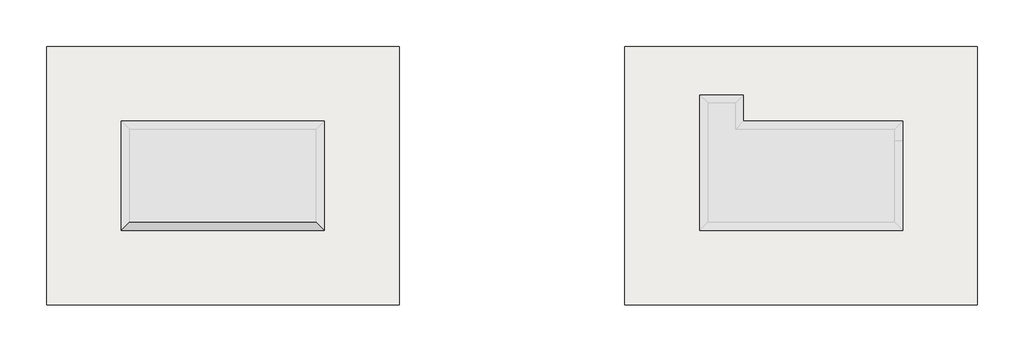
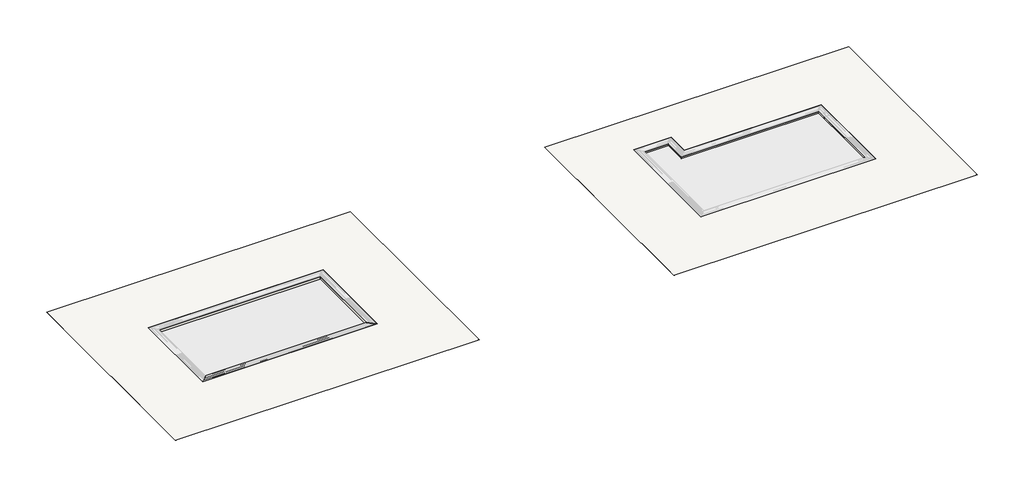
# One storey, part 1 of 6: 11 walls, 4 slabs, 1 proxy, 1 stair flight.
"""IFC4 building model written with IfcOpenShell, lengths in millimetres."""

import ifcopenshell
import ifcopenshell.guid

model = None  # the IFC model being written
_history = None  # IfcOwnerHistory: only IFC2X3 demands one
_inside = {}  # id of a spatial element -> (the spatial element, [elements in it])
_under = {}  # id of a project, library or spatial element -> (it, [spatial elements below it])
_declared = {}  # id of a project -> (the project, [libraries it declares])
_typed = {}  # id of a type object -> (the type object, [elements of that type])
_made_of = {}  # id of a material, layer set ... -> (it, [elements and type objects made of it])


def new_model(schema):
    """Start an empty IFC model of exactly this schema.

    Asked for "IFC4X3", IfcOpenShell would pick the latest addendum, in which some entities
    have other attributes; the version numbers below select the first issue.
    IFC2X3 requires an IfcOwnerHistory on every rooted entity: one is made here for all.
    """
    global model, _history
    if schema == "IFC4X3":
        model = ifcopenshell.file(schema_version=(4, 3, 0, 0))
    else:
        model = ifcopenshell.file(schema=schema)
    _inside.clear()
    _under.clear()
    _declared.clear()
    _typed.clear()
    _made_of.clear()
    _history = None
    if model.schema == "IFC2X3":
        org = make("IfcOrganization", Name="unknown")
        user = make(
            "IfcPersonAndOrganization",
            ThePerson=make("IfcPerson", FamilyName="unknown"),
            TheOrganization=org,
        )
        app = make(
            "IfcApplication",
            ApplicationDeveloper=org,
            Version="unknown",
            ApplicationFullName="unknown",
            ApplicationIdentifier="unknown",
        )
        _history = make(
            "IfcOwnerHistory",
            OwningUser=user,
            OwningApplication=app,
            ChangeAction="ADDED",
            CreationDate=0,
        )
    return model


def make(cls, **values):
    """One entity of the class cls with the attributes given. An attribute that is None is left unset."""
    return model.create_entity(
        cls, **{name: value for name, value in values.items() if value is not None}
    )


def rooted(cls, **values):
    """An entity with a GlobalId (a new one), such as an element, a storey or a relation."""
    return make(cls, GlobalId=ifcopenshell.guid.new(), OwnerHistory=_history, **values)


def si_unit(unit_type, name, prefix=None):
    """IfcSIUnit, for example si_unit("LENGTHUNIT", "METRE", prefix="MILLI")."""
    return make("IfcSIUnit", UnitType=unit_type, Prefix=prefix, Name=name)


def assignment(units):
    """IfcUnitAssignment: the units of a project."""
    return None if units is None else make("IfcUnitAssignment", Units=units)


def point(xyz):
    """IfcCartesianPoint."""
    return None if xyz is None else make("IfcCartesianPoint", Coordinates=xyz)


def direction(xyz):
    """IfcDirection."""
    return None if xyz is None else make("IfcDirection", DirectionRatios=xyz)


def frame(location, z_axis=None, x_axis=None):
    """IfcAxis2Placement3D, a coordinate frame: its origin and axes. An axis left out is left unset."""
    return make(
        "IfcAxis2Placement3D",
        Location=point(location),
        Axis=direction(z_axis),
        RefDirection=direction(x_axis),
    )


def origin():
    """The frame at (0, 0, 0) with its axes left unset."""
    return frame((0.0, 0.0, 0.0))


def place(relative_to, where):
    """IfcLocalPlacement: puts the frame where relative to a parent placement (None: the world)."""
    return make(
        "IfcLocalPlacement", PlacementRelTo=relative_to, RelativePlacement=where
    )


def context(
    kind, dimensions, precision=None, world=None, true_north=None, identifier=None
):
    """IfcGeometricRepresentationContext, for example the 3D "Model" context."""
    return make(
        "IfcGeometricRepresentationContext",
        ContextIdentifier=identifier,
        ContextType=kind,
        CoordinateSpaceDimension=dimensions,
        Precision=precision,
        WorldCoordinateSystem=world,
        TrueNorth=true_north,
    )


def project(units=None, contexts=None):
    """IfcProject with its units and contexts."""
    return rooted(
        "IfcProject",
        Name="project",
        RepresentationContexts=contexts,
        UnitsInContext=assignment(units),
    )


def spatial(cls, under=None, at=None, **own):
    """A site, building, storey or space (cls), placed at a placement, below another one or the project."""
    s = rooted(cls, ObjectPlacement=at, **own)
    if under is not None:
        _under.setdefault(under.id(), (under, []))[1].append(s)
    return s


def polyline(points):
    """IfcPolyline through the points."""
    return make("IfcPolyline", Points=[point(p) for p in points])


def outline(outer, holes=None, kind="AREA"):
    """IfcArbitraryClosedProfileDef: a profile drawn as a closed curve; with holes, ...WithVoids."""
    if holes is None:
        return make("IfcArbitraryClosedProfileDef", ProfileType=kind, OuterCurve=outer)
    return make(
        "IfcArbitraryProfileDefWithVoids",
        ProfileType=kind,
        OuterCurve=outer,
        InnerCurves=holes,
    )


def extrude(swept, where, along, depth):
    """IfcExtrudedAreaSolid: the profile swept, set in the frame where, extruded along a direction by depth."""
    return make(
        "IfcExtrudedAreaSolid",
        SweptArea=swept,
        Position=where,
        ExtrudedDirection=direction(along),
        Depth=depth,
    )


def faces_of(points, faces, orient=None, outer=None):
    """IfcFace entities. A face is a list of loops; a loop is a list of indices into points, from 0.

    orient and outer hold one flag for each loop. By default every Orientation is true, the
    first loop of a face is its IfcFaceOuterBound and the others are IfcFaceBound.
    """
    made = []
    for i, loops in enumerate(faces):
        bounds = []
        for j, loop in enumerate(loops):
            is_outer = j == 0 if outer is None else outer[i][j]
            bounds.append(
                make(
                    "IfcFaceOuterBound" if is_outer else "IfcFaceBound",
                    Bound=make("IfcPolyLoop", Polygon=[points[k] for k in loop]),
                    Orientation=True if orient is None else orient[i][j],
                )
            )
        made.append(make("IfcFace", Bounds=bounds))
    return made


def faceted_brep(points, faces, orient=None, outer=None, voids=None):
    """IfcFacetedBrep: a solid bounded by flat faces; with voids (closed shells), ...WithVoids."""
    shared = [point(p) for p in points]
    hull = make("IfcClosedShell", CfsFaces=faces_of(shared, faces, orient, outer))
    if voids is None:
        return make("IfcFacetedBrep", Outer=hull)
    return make(
        "IfcFacetedBrepWithVoids",
        Outer=hull,
        Voids=[
            make(cls, CfsFaces=faces_of(shared, fs, o, b)) for cls, fs, o, b in voids
        ],
    )


def shape(context_of_items, identifier, shape_type, items):
    """IfcShapeRepresentation: the items that make up one representation, for example the "Body"."""
    return make(
        "IfcShapeRepresentation",
        ContextOfItems=context_of_items,
        RepresentationIdentifier=identifier,
        RepresentationType=shape_type,
        Items=items,
    )


def made_of(thing, what):
    """Note that an element or type object is made of a material, layer set ...; save() writes the relation."""
    if what is not None:
        _made_of.setdefault(what.id(), (what, []))[1].append(thing)
    return thing


def element(
    cls,
    number,
    at=None,
    inside=None,
    cuts=None,
    type_object=None,
    material=None,
    context=None,
    identifier="Body",
    shape_type=None,
    held_by="IfcProductDefinitionShape",
    body=None,
    shapes=None,
    **own,
):
    """One element of the class cls, such as IfcWall. Its Tag is "e" and its number.

    at: its placement. inside: the storey or other place that contains it. cuts: it is an
    opening in that element (IfcRelVoidsElement). A single representation is given by context,
    identifier, shape_type and body (its items); several are given by shapes. held_by: the class
    of the entity that holds the representations. save() writes the other relations.
    """
    e = rooted(cls, Tag="e%d" % number, ObjectPlacement=at, **own)
    if body is not None:
        shapes = [shape(context, identifier, shape_type, body)]
    if shapes is not None:
        e.Representation = make(held_by, Representations=shapes)
    if inside is not None:
        _inside.setdefault(inside.id(), (inside, []))[1].append(e)
    if cuts is not None:
        rooted(
            "IfcRelVoidsElement", RelatingBuildingElement=cuts, RelatedOpeningElement=e
        )
    if type_object is not None:
        _typed.setdefault(type_object.id(), (type_object, []))[1].append(e)
    return made_of(e, material)


def aggregate(whole, parts):
    """IfcRelAggregates: a whole, such as a stair, and the parts it consists of."""
    return rooted("IfcRelAggregates", RelatingObject=whole, RelatedObjects=parts)


def save(model, path):
    """Write the relations noted so far, then the file.

    IfcRelAggregates (storeys below a building ...), IfcRelContainedInSpatialStructure (elements
    in a storey), IfcRelDefinesByType, IfcRelAssociatesMaterial and IfcRelDeclares: one each for
    every whole, place, type object, material and project.
    """
    for whole, parts in _under.values():
        aggregate(whole, parts)
    for where, things in _inside.values():
        rooted(
            "IfcRelContainedInSpatialStructure",
            RelatedElements=things,
            RelatingStructure=where,
        )
    for kind, things in _typed.values():
        rooted("IfcRelDefinesByType", RelatedObjects=things, RelatingType=kind)
    for what, things in _made_of.values():
        rooted("IfcRelAssociatesMaterial", RelatedObjects=things, RelatingMaterial=what)
    for by, libraries in _declared.values():
        rooted("IfcRelDeclares", RelatingContext=by, RelatedDefinitions=libraries)
    model.write(path)


model = new_model("IFC4")

# Units and contexts
model_context = context("Model", 3, world=origin())
ifc_project = project(units=[si_unit("LENGTHUNIT", "METRE", prefix="MILLI")], contexts=[model_context])

# Site, building, storey
site = spatial("IfcSite", under=ifc_project)
building = spatial("IfcBuilding", under=site)
storey = spatial("IfcBuildingStorey", under=building, Name="EXAGRES_NUBIA Series_Pool_Examples", Elevation=18000.0)

# Proxy
placement = place(None, origin())
element("IfcBuildingElementProxy", 1, Name="Wall Sweeps", at=placement, inside=storey, context=model_context, shape_type="Brep", body=[
    faceted_brep([(-5315.8828161, -8556.6632512, 18000.0), (-5328.8828161, -8543.6632512, 18000.0), (-5328.8828161, -8543.6632512, 18033.0), (-4998.8828161, -8873.6632512, 18033.0), (-4998.8828161, -8873.6632512, 18021.0), (-5004.8828161, -8867.6632512, 18021.0), (-5004.8828161, -8867.6632512, 18022.0), (-5008.8828161, -8863.6632512, 18022.0), (-5008.8828161, -8863.6632512, 18021.0), (-5014.8828161, -8857.6632512, 18021.0), (-5014.8828161, -8857.6632512, 18022.0), (-5018.8828161, -8853.6632512, 18022.0), (-5018.8828161, -8853.6632512, 18021.0), (-5024.8828161, -8847.6632512, 18021.0), (-5024.8828161, -8847.6632512, 18022.0), (-5028.8828161, -8843.6632512, 18022.0), (-5028.8828161, -8843.6632512, 18021.0), (-5034.8828161, -8837.6632512, 18021.0), (-5034.8828161, -8837.6632512, 18022.0), (-5038.8828161, -8833.6632512, 18022.0), (-5038.8828161, -8833.6632512, 18021.0), (-5044.8828161, -8827.6632512, 18021.0), (-5044.8828161, -8827.6632512, 18022.0), (-5048.8828161, -8823.6632512, 18022.0), (-5048.8828161, -8823.6632512, 18021.0), (-5054.8828161, -8817.6632512, 18021.0), (-5054.8828161, -8817.6632512, 18022.0), (-5058.8828161, -8813.6632512, 18022.0), (-5058.8828161, -8813.6632512, 18021.0), (-5064.8828161, -8807.6632512, 18021.0), (-5064.8828161, -8807.6632512, 18022.0), (-5068.8828161, -8803.6632512, 18022.0), (-5068.8828161, -8803.6632512, 18021.0), (-5074.8828161, -8797.6632512, 18021.0), (-5074.8828161, -8797.6632512, 18022.0), (-5078.8828161, -8793.6632512, 18022.0), (-5078.8828161, -8793.6632512, 18021.0), (-5084.8828161, -8787.6632512, 18021.0), (-5084.8828161, -8787.6632512, 18022.0), (-5088.8828161, -8783.6632512, 18022.0), (-5088.8828161, -8783.6632512, 18021.0), (-5094.8828161, -8777.6632512, 18021.0), (-5094.8828161, -8777.6632512, 18022.0), (-5098.8828161, -8773.6632512, 18022.0), (-5098.8828161, -8773.6632512, 18021.0), (-5104.8828161, -8767.6632512, 18021.0), (-5104.8828161, -8767.6632512, 18022.0), (-5108.8828161, -8763.6632512, 18022.0), (-5108.8828161, -8763.6632512, 18021.0), (-5114.8828161, -8757.6632512, 18021.0), (-5114.8828161, -8757.6632512, 18022.0), (-5118.8828161, -8753.6632512, 18022.0), (-5118.8828161, -8753.6632512, 18021.0), (-5124.8828161, -8747.6632512, 18021.0), (-5124.8828161, -8747.6632512, 18022.0), (-5128.8828161, -8743.6632512, 18022.0), (-5128.8828161, -8743.6632512, 18021.0), (-5134.8828161, -8737.6632512, 18021.0), (-5134.8828161, -8737.6632512, 18022.0), (-5138.8828161, -8733.6632512, 18022.0), (-5138.8828161, -8733.6632512, 18021.0), (-5144.8828161, -8727.6632512, 18021.0), (-5144.8828161, -8727.6632512, 18022.0), (-5148.8828161, -8723.6632512, 18022.0), (-5148.8828161, -8723.6632512, 18021.0), (-5154.8828161, -8717.6632512, 18021.0), (-5154.8828161, -8717.6632512, 18022.0), (-5158.8828161, -8713.6632512, 18022.0), (-5158.8828161, -8713.6632512, 18021.0), (-5164.8828161, -8707.6632512, 18021.0), (-5164.8828161, -8707.6632512, 18022.0), (-5168.8828161, -8703.6632512, 18022.0), (-5168.8828161, -8703.6632512, 18021.0), (-5174.8828161, -8697.6632512, 18021.0), (-5174.8828161, -8697.6632512, 18022.0), (-5178.8828161, -8693.6632512, 18022.0), (-5178.8828161, -8693.6632512, 18021.0), (-5184.8828161, -8687.6632512, 18021.0), (-5184.8828161, -8687.6632512, 18022.0), (-5188.8828161, -8683.6632512, 18022.0), (-5188.8828161, -8683.6632512, 18021.0), (-5194.8828161, -8677.6632512, 18021.0), (-5194.8828161, -8677.6632512, 18022.0), (-5198.8828161, -8673.6632512, 18022.0), (-5198.8828161, -8673.6632512, 18021.0), (-5204.8828161, -8667.6632512, 18021.0), (-5204.8828161, -8667.6632512, 18022.0), (-5208.8828161, -8663.6632512, 18022.0), (-5208.8828161, -8663.6632512, 18021.0), (-5214.8828161, -8657.6632512, 18021.0), (-5214.8828161, -8657.6632512, 18022.0), (-5218.8828161, -8653.6632512, 18022.0), (-5218.8828161, -8653.6632512, 18021.0), (-5224.8828161, -8647.6632512, 18021.0), (-5224.8828161, -8647.6632512, 18022.0), (-5228.8828161, -8643.6632512, 18022.0), (-5228.8828161, -8643.6632512, 18021.0), (-5234.8828161, -8637.6632512, 18021.0), (-5234.8828161, -8637.6632512, 18022.0), (-5238.8828161, -8633.6632512, 18022.0), (-5238.8828161, -8633.6632512, 18021.0), (-5244.8828161, -8627.6632512, 18021.0), (-5244.8828161, -8627.6632512, 18022.0), (-5248.8828161, -8623.6632512, 18022.0), (-5248.8828161, -8623.6632512, 18021.0), (-5254.8828161, -8617.6632512, 18021.0), (-5254.8828161, -8617.6632512, 18022.0), (-5258.8828161, -8613.6632512, 18022.0), (-5258.8828161, -8613.6632512, 18021.0), (-5264.8828161, -8607.6632512, 18021.0), (-5264.8828161, -8607.6632512, 18022.0), (-5268.8828161, -8603.6632512, 18022.0), (-5268.8828161, -8603.6632512, 18021.0), (-5274.8828161, -8597.6632512, 18021.0), (-5274.8828161, -8597.6632512, 18022.0), (-5278.8828161, -8593.6632512, 18022.0), (-5278.8828161, -8593.6632512, 18021.0), (-5284.8828161, -8587.6632512, 18021.0), (-5284.8828161, -8587.6632512, 18022.0), (-5288.8828161, -8583.6632512, 18022.0), (-5288.8828161, -8583.6632512, 18021.0), (-5294.8828161, -8577.6632512, 18021.0), (-5294.8828161, -8577.6632512, 18022.0), (-5298.8828161, -8573.6632512, 18022.0), (-5298.8828161, -8573.6632512, 18021.0), (-5304.8828161, -8567.6632512, 18021.0), (-5304.8828161, -8567.6632512, 18022.0), (-5308.8828161, -8563.6632512, 18022.0), (-5308.8828161, -8563.6632512, 18021.0), (-5315.8828161, -8556.6632512, 18021.0), (-5315.8828161, -8556.6632512, 18014.0), (-5316.8828161, -8555.6632512, 18014.0), (-5316.8828161, -8555.6632512, 18008.0), (-5315.8828161, -8556.6632512, 18008.0), (-13341.8828161, -8556.6632512, 18000.0), (-13341.8828161, -8556.6632512, 18008.0), (-13340.8828161, -8555.6632512, 18008.0), (-13340.8828161, -8555.6632512, 18014.0), (-13341.8828161, -8556.6632512, 18014.0), (-13341.8828161, -8556.6632512, 18021.0), (-13348.8828161, -8563.6632512, 18021.0), (-13348.8828161, -8563.6632512, 18022.0), (-13352.8828161, -8567.6632512, 18022.0), (-13352.8828161, -8567.6632512, 18021.0), (-13358.8828161, -8573.6632512, 18021.0), (-13358.8828161, -8573.6632512, 18022.0), (-13362.8828161, -8577.6632512, 18022.0), (-13362.8828161, -8577.6632512, 18021.0), (-13368.8828161, -8583.6632512, 18021.0), (-13368.8828161, -8583.6632512, 18022.0), (-13372.8828161, -8587.6632512, 18022.0), (-13372.8828161, -8587.6632512, 18021.0), (-13378.8828161, -8593.6632512, 18021.0), (-13378.8828161, -8593.6632512, 18022.0), (-13382.8828161, -8597.6632512, 18022.0), (-13382.8828161, -8597.6632512, 18021.0), (-13388.8828161, -8603.6632512, 18021.0), (-13388.8828161, -8603.6632512, 18022.0), (-13392.8828161, -8607.6632512, 18022.0), (-13392.8828161, -8607.6632512, 18021.0), (-13398.8828161, -8613.6632512, 18021.0), (-13398.8828161, -8613.6632512, 18022.0), (-13402.8828161, -8617.6632512, 18022.0), (-13402.8828161, -8617.6632512, 18021.0), (-13408.8828161, -8623.6632512, 18021.0), (-13408.8828161, -8623.6632512, 18022.0), (-13412.8828161, -8627.6632512, 18022.0), (-13412.8828161, -8627.6632512, 18021.0), (-13418.8828161, -8633.6632512, 18021.0), (-13418.8828161, -8633.6632512, 18022.0), (-13422.8828161, -8637.6632512, 18022.0), (-13422.8828161, -8637.6632512, 18021.0), (-13428.8828161, -8643.6632512, 18021.0), (-13428.8828161, -8643.6632512, 18022.0), (-13432.8828161, -8647.6632512, 18022.0), (-13432.8828161, -8647.6632512, 18021.0), (-13438.8828161, -8653.6632512, 18021.0), (-13438.8828161, -8653.6632512, 18022.0), (-13442.8828161, -8657.6632512, 18022.0), (-13442.8828161, -8657.6632512, 18021.0), (-13448.8828161, -8663.6632512, 18021.0), (-13448.8828161, -8663.6632512, 18022.0), (-13452.8828161, -8667.6632512, 18022.0), (-13452.8828161, -8667.6632512, 18021.0), (-13458.8828161, -8673.6632512, 18021.0), (-13458.8828161, -8673.6632512, 18022.0), (-13462.8828161, -8677.6632512, 18022.0), (-13462.8828161, -8677.6632512, 18021.0), (-13468.8828161, -8683.6632512, 18021.0), (-13468.8828161, -8683.6632512, 18022.0), (-13472.8828161, -8687.6632512, 18022.0), (-13472.8828161, -8687.6632512, 18021.0), (-13478.8828161, -8693.6632512, 18021.0), (-13478.8828161, -8693.6632512, 18022.0), (-13482.8828161, -8697.6632512, 18022.0), (-13482.8828161, -8697.6632512, 18021.0), (-13488.8828161, -8703.6632512, 18021.0), (-13488.8828161, -8703.6632512, 18022.0), (-13492.8828161, -8707.6632512, 18022.0), (-13492.8828161, -8707.6632512, 18021.0), (-13498.8828161, -8713.6632512, 18021.0), (-13498.8828161, -8713.6632512, 18022.0), (-13502.8828161, -8717.6632512, 18022.0), (-13502.8828161, -8717.6632512, 18021.0), (-13508.8828161, -8723.6632512, 18021.0), (-13508.8828161, -8723.6632512, 18022.0), (-13512.8828161, -8727.6632512, 18022.0), (-13512.8828161, -8727.6632512, 18021.0), (-13518.8828161, -8733.6632512, 18021.0), (-13518.8828161, -8733.6632512, 18022.0), (-13522.8828161, -8737.6632512, 18022.0), (-13522.8828161, -8737.6632512, 18021.0), (-13528.8828161, -8743.6632512, 18021.0), (-13528.8828161, -8743.6632512, 18022.0), (-13532.8828161, -8747.6632512, 18022.0), (-13532.8828161, -8747.6632512, 18021.0), (-13538.8828161, -8753.6632512, 18021.0), (-13538.8828161, -8753.6632512, 18022.0), (-13542.8828161, -8757.6632512, 18022.0), (-13542.8828161, -8757.6632512, 18021.0), (-13548.8828161, -8763.6632512, 18021.0), (-13548.8828161, -8763.6632512, 18022.0), (-13552.8828161, -8767.6632512, 18022.0), (-13552.8828161, -8767.6632512, 18021.0), (-13558.8828161, -8773.6632512, 18021.0), (-13558.8828161, -8773.6632512, 18022.0), (-13562.8828161, -8777.6632512, 18022.0), (-13562.8828161, -8777.6632512, 18021.0), (-13568.8828161, -8783.6632512, 18021.0), (-13568.8828161, -8783.6632512, 18022.0), (-13572.8828161, -8787.6632512, 18022.0), (-13572.8828161, -8787.6632512, 18021.0), (-13578.8828161, -8793.6632512, 18021.0), (-13578.8828161, -8793.6632512, 18022.0), (-13582.8828161, -8797.6632512, 18022.0), (-13582.8828161, -8797.6632512, 18021.0), (-13588.8828161, -8803.6632512, 18021.0), (-13588.8828161, -8803.6632512, 18022.0), (-13592.8828161, -8807.6632512, 18022.0), (-13592.8828161, -8807.6632512, 18021.0), (-13598.8828161, -8813.6632512, 18021.0), (-13598.8828161, -8813.6632512, 18022.0), (-13602.8828161, -8817.6632512, 18022.0), (-13602.8828161, -8817.6632512, 18021.0), (-13608.8828161, -8823.6632512, 18021.0), (-13608.8828161, -8823.6632512, 18022.0), (-13612.8828161, -8827.6632512, 18022.0), (-13612.8828161, -8827.6632512, 18021.0), (-13618.8828161, -8833.6632512, 18021.0), (-13618.8828161, -8833.6632512, 18022.0), (-13622.8828161, -8837.6632512, 18022.0), (-13622.8828161, -8837.6632512, 18021.0), (-13628.8828161, -8843.6632512, 18021.0), (-13628.8828161, -8843.6632512, 18022.0), (-13632.8828161, -8847.6632512, 18022.0), (-13632.8828161, -8847.6632512, 18021.0), (-13638.8828161, -8853.6632512, 18021.0), (-13638.8828161, -8853.6632512, 18022.0), (-13642.8828161, -8857.6632512, 18022.0), (-13642.8828161, -8857.6632512, 18021.0), (-13648.8828161, -8863.6632512, 18021.0), (-13648.8828161, -8863.6632512, 18022.0), (-13652.8828161, -8867.6632512, 18022.0), (-13652.8828161, -8867.6632512, 18021.0), (-13658.8828161, -8873.6632512, 18021.0), (-13658.8828161, -8873.6632512, 18033.0), (-13328.8828161, -8543.6632512, 18033.0), (-13328.8828161, -8543.6632512, 18000.0)], [[[0, 1, 2, 3, 4, 5, 6, 7, 8, 9, 10, 11, 12, 13, 14, 15, 16, 17, 18, 19, 20, 21, 22, 23, 24, 25, 26, 27, 28, 29, 30, 31, 32, 33, 34, 35, 36, 37, 38, 39, 40, 41, 42, 43, 44, 45, 46, 47, 48, 49, 50, 51, 52, 53, 54, 55, 56, 57, 58, 59, 60, 61, 62, 63, 64, 65, 66, 67, 68, 69, 70, 71, 72, 73, 74, 75, 76, 77, 78, 79, 80, 81, 82, 83, 84, 85, 86, 87, 88, 89, 90, 91, 92, 93, 94, 95, 96, 97, 98, 99, 100, 101, 102, 103, 104, 105, 106, 107, 108, 109, 110, 111, 112, 113, 114, 115, 116, 117, 118, 119, 120, 121, 122, 123, 124, 125, 126, 127, 128, 129, 130, 131, 132, 133]], [[134, 135, 136, 137, 138, 139, 140, 141, 142, 143, 144, 145, 146, 147, 148, 149, 150, 151, 152, 153, 154, 155, 156, 157, 158, 159, 160, 161, 162, 163, 164, 165, 166, 167, 168, 169, 170, 171, 172, 173, 174, 175, 176, 177, 178, 179, 180, 181, 182, 183, 184, 185, 186, 187, 188, 189, 190, 191, 192, 193, 194, 195, 196, 197, 198, 199, 200, 201, 202, 203, 204, 205, 206, 207, 208, 209, 210, 211, 212, 213, 214, 215, 216, 217, 218, 219, 220, 221, 222, 223, 224, 225, 226, 227, 228, 229, 230, 231, 232, 233, 234, 235, 236, 237, 238, 239, 240, 241, 242, 243, 244, 245, 246, 247, 248, 249, 250, 251, 252, 253, 254, 255, 256, 257, 258, 259, 260, 261, 262, 263, 264, 265, 266, 267]], [[1, 0, 134, 267]], [[2, 1, 267, 266]], [[3, 2, 266, 265]], [[4, 3, 265, 264]], [[5, 4, 264, 263]], [[6, 5, 263, 262]], [[7, 6, 262, 261]], [[8, 7, 261, 260]], [[9, 8, 260, 259]], [[10, 9, 259, 258]], [[11, 10, 258, 257]], [[12, 11, 257, 256]], [[13, 12, 256, 255]], [[14, 13, 255, 254]], [[15, 14, 254, 253]], [[16, 15, 253, 252]], [[17, 16, 252, 251]], [[18, 17, 251, 250]], [[19, 18, 250, 249]], [[20, 19, 249, 248]], [[21, 20, 248, 247]], [[22, 21, 247, 246]], [[23, 22, 246, 245]], [[24, 23, 245, 244]], [[25, 24, 244, 243]], [[26, 25, 243, 242]], [[27, 26, 242, 241]], [[28, 27, 241, 240]], [[29, 28, 240, 239]], [[30, 29, 239, 238]], [[31, 30, 238, 237]], [[32, 31, 237, 236]], [[33, 32, 236, 235]], [[34, 33, 235, 234]], [[35, 34, 234, 233]], [[36, 35, 233, 232]], [[37, 36, 232, 231]], [[38, 37, 231, 230]], [[39, 38, 230, 229]], [[40, 39, 229, 228]], [[41, 40, 228, 227]], [[42, 41, 227, 226]], [[43, 42, 226, 225]], [[44, 43, 225, 224]], [[45, 44, 224, 223]], [[46, 45, 223, 222]], [[47, 46, 222, 221]], [[48, 47, 221, 220]], [[49, 48, 220, 219]], [[50, 49, 219, 218]], [[51, 50, 218, 217]], [[52, 51, 217, 216]], [[53, 52, 216, 215]], [[54, 53, 215, 214]], [[55, 54, 214, 213]], [[56, 55, 213, 212]], [[57, 56, 212, 211]], [[58, 57, 211, 210]], [[59, 58, 210, 209]], [[60, 59, 209, 208]], [[61, 60, 208, 207]], [[62, 61, 207, 206]], [[63, 62, 206, 205]], [[64, 63, 205, 204]], [[65, 64, 204, 203]], [[66, 65, 203, 202]], [[67, 66, 202, 201]], [[68, 67, 201, 200]], [[69, 68, 200, 199]], [[70, 69, 199, 198]], [[71, 70, 198, 197]], [[72, 71, 197, 196]], [[73, 72, 196, 195]], [[74, 73, 195, 194]], [[75, 74, 194, 193]], [[76, 75, 193, 192]], [[77, 76, 192, 191]], [[78, 77, 191, 190]], [[79, 78, 190, 189]], [[80, 79, 189, 188]], [[81, 80, 188, 187]], [[82, 81, 187, 186]], [[83, 82, 186, 185]], [[84, 83, 185, 184]], [[85, 84, 184, 183]], [[86, 85, 183, 182]], [[87, 86, 182, 181]], [[88, 87, 181, 180]], [[89, 88, 180, 179]], [[90, 89, 179, 178]], [[91, 90, 178, 177]], [[92, 91, 177, 176]], [[93, 92, 176, 175]], [[94, 93, 175, 174]], [[95, 94, 174, 173]], [[96, 95, 173, 172]], [[97, 96, 172, 171]], [[98, 97, 171, 170]], [[99, 98, 170, 169]], [[100, 99, 169, 168]], [[101, 100, 168, 167]], [[102, 101, 167, 166]], [[103, 102, 166, 165]], [[104, 103, 165, 164]], [[105, 104, 164, 163]], [[106, 105, 163, 162]], [[107, 106, 162, 161]], [[108, 107, 161, 160]], [[109, 108, 160, 159]], [[110, 109, 159, 158]], [[111, 110, 158, 157]], [[112, 111, 157, 156]], [[113, 112, 156, 155]], [[114, 113, 155, 154]], [[115, 114, 154, 153]], [[116, 115, 153, 152]], [[117, 116, 152, 151]], [[118, 117, 151, 150]], [[119, 118, 150, 149]], [[120, 119, 149, 148]], [[121, 120, 148, 147]], [[122, 121, 147, 146]], [[123, 122, 146, 145]], [[124, 123, 145, 144]], [[125, 124, 144, 143]], [[126, 125, 143, 142]], [[127, 126, 142, 141]], [[128, 127, 141, 140]], [[129, 128, 140, 139]], [[130, 129, 139, 138]], [[131, 130, 138, 137]], [[132, 131, 137, 136]], [[133, 132, 136, 135]], [[0, 133, 135, 134]]]),
])

# Slabs
element("IfcSlab", 2, ObjectType="Exagres_Nubia_Base_33x66,5_R11+C", at=placement, inside=storey, context=model_context, shape_type="Brep", body=[
    faceted_brep([(-5098.8817034, -4313.6621384, 16490.0), (-5098.8817034, -4313.6621384, 16500.0), (-5098.8817034, -8773.664364, 16500.0), (-5098.8817034, -8773.664364, 16490.0), (-7328.8828161, -8773.664364, 16500.0), (-11328.8828161, -8773.664364, 17500.0), (-13558.8839289, -8773.664364, 17500.0), (-13558.8839289, -8773.664364, 17490.0), (-11328.8828161, -8773.664364, 17490.0), (-7328.8828161, -8773.664364, 16490.0), (-13558.8839289, -4313.6621384, 17500.0), (-13558.8839289, -4313.6621384, 17490.0), (-11328.8828161, -4313.6621384, 17500.0), (-7328.8828161, -4313.6621384, 16500.0), (-7328.8828161, -4313.6621384, 16490.0), (-11328.8828161, -4313.6621384, 17490.0), (-11328.8828161, -8768.6632512, 17500.0), (-11328.8828161, -8543.6632512, 17500.0), (-11328.8828161, -8543.6632512, 17490.0), (-11328.8828161, -8768.6632512, 17490.0)], [[[0, 1, 2, 3]], [[3, 2, 4, 5, 6, 7, 8, 9]], [[7, 6, 10, 11]], [[11, 10, 12, 13, 1, 0, 14, 15]], [[10, 6, 5, 16, 17, 12]], [[11, 15, 18, 19, 8, 7]], [[2, 1, 13, 4]], [[3, 9, 14, 0]], [[5, 4, 13, 12, 17, 16]], [[8, 19, 18, 15, 14, 9]]]),
])
element("IfcSlab", 3, ObjectType="Exagres_Nubia_Base_60x120_R11+C_Rect", at=placement, inside=storey, context=model_context, shape_type="SweptSolid", body=[
    extrude(outline(polyline([(-1798.8817034, -1013.6621384), (-1798.8817034, -12073.664364), (-16858.8839289, -12073.664364), (-16858.8839289, -1013.6621384), (-1798.8817034, -1013.6621384)]), holes=[polyline([(-4998.8828161, -4213.6632512), (-13658.8828161, -4213.6632512), (-13658.8828161, -8873.6632512), (-4998.8828161, -8873.6632512), (-4998.8828161, -4213.6632512)])]), frame((0.0, 0.0, 18023.0), z_axis=(0.0, 0.0, 1.0), x_axis=(1.0, 0.0, 0.0)), (0.0, 0.0, 1.0), 10.0),
])
element("IfcSlab", 4, ObjectType="Exagres_Nubia_Piscina_33x66,5_R11+C", at=placement, inside=storey, context=model_context, shape_type="Brep", body=[
    faceted_brep([(19601.1182966, -4313.6621384, 16490.0), (19601.1182966, -4313.6621384, 16500.0), (19601.1182966, -8773.664364, 16500.0), (19601.1182966, -8773.664364, 16490.0), (17371.1171839, -8773.664364, 16500.0), (13371.1171839, -8773.664364, 17500.0), (11141.1160711, -8773.664364, 17500.0), (11141.1160711, -8773.664364, 17490.0), (13371.1171839, -8773.664364, 17490.0), (17371.1171839, -8773.664364, 16490.0), (11141.1160711, -4313.6621384, 17500.0), (11141.1160711, -4313.6621384, 17490.0), (13371.1171839, -4313.6621384, 17500.0), (17371.1171839, -4313.6621384, 16500.0), (17371.1171839, -4313.6621384, 16490.0), (13371.1171839, -4313.6621384, 17490.0), (13371.1171839, -8768.6632512, 17500.0), (13371.1171839, -8543.6632512, 17500.0), (13371.1171839, -4543.6632512, 17500.0), (13371.1171839, -4318.6632512, 17500.0), (13371.1171839, -8543.6632512, 17490.0), (13371.1171839, -8768.6632512, 17490.0), (17371.1171839, -4318.6632512, 16500.0), (17371.1171839, -4543.6632512, 16500.0)], [[[0, 1, 2, 3]], [[3, 2, 4, 5, 6, 7, 8, 9]], [[7, 6, 10, 11]], [[11, 10, 12, 13, 1, 0, 14, 15]], [[10, 6, 5, 16, 17, 18, 19, 12]], [[11, 15, 20, 21, 8, 7]], [[2, 1, 13, 22, 23, 4]], [[3, 9, 14, 0]], [[5, 4, 23, 22, 13, 12, 19, 18, 17, 16]], [[8, 21, 20, 15, 14, 9]]]),
])
element("IfcSlab", 5, ObjectType="Exagres_Nubia_Base_60x120_R11+C_Rect", at=placement, inside=storey, context=model_context, shape_type="SweptSolid", body=[
    extrude(outline(polyline([(22901.1182966, -1013.6621384), (22901.1182966, -12073.664364), (7841.1160711, -12073.664364), (7841.1160711, -1013.6621384), (22901.1182966, -1013.6621384)]), holes=[polyline([(19701.1171839, -4213.6632512), (12901.1171839, -4213.6632512), (12901.1171839, -3093.6632512), (11041.1171839, -3093.6632512), (11041.1171839, -8873.6632512), (19701.1171839, -8873.6632512), (19701.1171839, -4213.6632512)])]), frame((0.0, 0.0, 18023.0), z_axis=(0.0, 0.0, 1.0), x_axis=(1.0, 0.0, 0.0)), (0.0, 0.0, 1.0), 10.0),
])

# Stair flight
element("IfcStairFlight", 6, ObjectType="EXAGRES_Straight - Nubia R11+C", at=placement, inside=storey, context=model_context, shape_type="SolidModel", body=[
    faceted_brep([(11371.1171839, -4248.6632512, 17585.0), (11371.1171839, -4528.6632512, 17585.0), (12571.1171839, -4528.6632512, 17585.0), (12571.1171839, -4248.6632512, 17585.0), (11371.1171839, -4248.6632512, 17500.0), (11371.1171839, -4528.6632512, 17500.0), (12571.1171839, -4528.6632512, 17500.0), (12571.1171839, -4248.6632512, 17500.0), (11371.1171839, -3968.6632512, 17685.0), (11371.1171839, -4248.6632512, 17685.0), (12571.1171839, -4248.6632512, 17685.0), (12571.1171839, -3968.6632512, 17685.0), (11371.1171839, -3968.6632512, 17515.1020715), (11371.1171839, -4010.9490513, 17500.0), (12571.1171839, -4010.9490513, 17500.0), (12571.1171839, -3968.6632512, 17515.1020715), (11371.1171839, -3688.6632512, 17615.1020715), (11371.1171839, -3423.6632512, 17709.7449286), (12571.1171839, -3423.6632512, 17709.7449286), (12571.1171839, -3688.6632512, 17615.1020715), (11371.1171839, -3688.6632512, 17785.0), (11371.1171839, -3968.6632512, 17785.0), (12571.1171839, -3968.6632512, 17785.0), (12571.1171839, -3688.6632512, 17785.0), (11371.1171839, -3423.6632512, 17885.0), (11371.1171839, -3688.6632512, 17885.0), (12571.1171839, -3688.6632512, 17885.0), (12571.1171839, -3423.6632512, 17885.0)], [[[0, 1, 2, 3]], [[1, 0, 4, 5]], [[2, 1, 5, 6]], [[3, 2, 6, 7]], [[8, 9, 10, 11]], [[4, 0, 9, 8, 12, 13]], [[0, 3, 10, 9]], [[3, 7, 14, 15, 11, 10]], [[5, 4, 13, 14, 7, 6]], [[14, 13, 12, 16, 17, 18, 19, 15]], [[20, 21, 22, 23]], [[21, 20, 16, 12, 8]], [[8, 11, 22, 21]], [[23, 22, 11, 15, 19]], [[24, 25, 26, 27]], [[25, 24, 17, 16, 20]], [[20, 23, 26, 25]], [[27, 26, 23, 19, 18]], [[24, 27, 18, 17]]]),
    extrude(outline(polyline([(-4248.6632512, 17585.0), (-4525.7537023, 17585.0), (-4525.7537023, 17588.0), (-4530.6632512, 17588.0), (-4530.6632512, 17581.0), (-4531.6632512, 17581.0), (-4531.6632512, 17575.0), (-4530.6632512, 17575.0), (-4530.6632512, 17567.0), (-4543.6632512, 17567.0), (-4543.6632512, 17600.0), (-4248.6632512, 17600.0), (-4248.6632512, 17585.0)])), frame((11371.1171839, 0.0, 0.0), z_axis=(1.0, 0.0, 0.0), x_axis=(0.0, 1.0, 0.0)), (0.0, 0.0, 1.0), 1200.0),
    extrude(outline(polyline([(12571.1171839, -4528.6632512), (12571.1171839, -4543.6632512), (11371.1171839, -4543.6632512), (11371.1171839, -4528.6632512), (12571.1171839, -4528.6632512)])), frame((0.0, 0.0, 17500.0), z_axis=(0.0, 0.0, 1.0), x_axis=(1.0, 0.0, 0.0)), (0.0, 0.0, 1.0), 67.0),
    extrude(outline(polyline([(12571.1171839, -4248.6632512), (12571.1171839, -4263.6632512), (11371.1171839, -4263.6632512), (11371.1171839, -4248.6632512), (12571.1171839, -4248.6632512)])), frame((0.0, 0.0, 17600.0), z_axis=(0.0, 0.0, 1.0), x_axis=(1.0, 0.0, 0.0)), (0.0, 0.0, 1.0), 67.0),
    extrude(outline(polyline([(-3968.6632512, 17685.0), (-4245.7537023, 17685.0), (-4245.7537023, 17688.0), (-4250.6632512, 17688.0), (-4250.6632512, 17681.0), (-4251.6632512, 17681.0), (-4251.6632512, 17675.0), (-4250.6632512, 17675.0), (-4250.6632512, 17667.0), (-4263.6632512, 17667.0), (-4263.6632512, 17700.0), (-3968.6632512, 17700.0), (-3968.6632512, 17685.0)])), frame((11371.1171839, 0.0, 0.0), z_axis=(1.0, 0.0, 0.0), x_axis=(0.0, 1.0, 0.0)), (0.0, 0.0, 1.0), 1200.0),
    extrude(outline(polyline([(12571.1171839, -3968.6632512), (12571.1171839, -3983.6632512), (11371.1171839, -3983.6632512), (11371.1171839, -3968.6632512), (12571.1171839, -3968.6632512)])), frame((0.0, 0.0, 17700.0), z_axis=(0.0, 0.0, 1.0), x_axis=(1.0, 0.0, 0.0)), (0.0, 0.0, 1.0), 67.0),
    extrude(outline(polyline([(-3688.6632512, 17785.0), (-3965.7537023, 17785.0), (-3965.7537023, 17788.0), (-3970.6632512, 17788.0), (-3970.6632512, 17781.0), (-3971.6632512, 17781.0), (-3971.6632512, 17775.0), (-3970.6632512, 17775.0), (-3970.6632512, 17767.0), (-3983.6632512, 17767.0), (-3983.6632512, 17800.0), (-3688.6632512, 17800.0), (-3688.6632512, 17785.0)])), frame((11371.1171839, 0.0, 0.0), z_axis=(1.0, 0.0, 0.0), x_axis=(0.0, 1.0, 0.0)), (0.0, 0.0, 1.0), 1200.0),
    extrude(outline(polyline([(12571.1171839, -3688.6632512), (12571.1171839, -3703.6632512), (11371.1171839, -3703.6632512), (11371.1171839, -3688.6632512), (12571.1171839, -3688.6632512)])), frame((0.0, 0.0, 17800.0), z_axis=(0.0, 0.0, 1.0), x_axis=(1.0, 0.0, 0.0)), (0.0, 0.0, 1.0), 67.0),
    extrude(outline(polyline([(-3423.6632512, 17885.0), (-3685.7537023, 17885.0), (-3685.7537023, 17888.0), (-3690.6632512, 17888.0), (-3690.6632512, 17881.0), (-3691.6632512, 17881.0), (-3691.6632512, 17875.0), (-3690.6632512, 17875.0), (-3690.6632512, 17867.0), (-3703.6632512, 17867.0), (-3703.6632512, 17900.0), (-3423.6632512, 17900.0), (-3423.6632512, 17885.0)])), frame((11371.1171839, 0.0, 0.0), z_axis=(1.0, 0.0, 0.0), x_axis=(0.0, 1.0, 0.0)), (0.0, 0.0, 1.0), 1200.0),
])

# Walls
element("IfcWall", 7, ObjectType="Exagres_Skimmer pool - Straight Step 33x120 - Nubia", at=placement, inside=storey, context=model_context, shape_type="Brep", body=[
    faceted_brep([(-5313.8828161, -4543.6632512, 17818.74), (-5313.8828161, -4543.6632512, 18000.0), (-5328.8828161, -4543.6632512, 18000.0), (-13328.8828161, -4543.6632512, 18000.0), (-13343.8828161, -4543.6632512, 18000.0), (-13343.8828161, -4543.6632512, 17818.74), (-13553.8828161, -4543.6632512, 17818.74), (-13553.8828161, -4543.6632512, 17500.0), (-13328.8828161, -4543.6632512, 17500.0), (-11328.8828161, -4543.6632512, 17500.0), (-7328.8828161, -4543.6632512, 16500.0), (-5103.8828161, -4543.6632512, 16500.0), (-5103.8828161, -4543.6632512, 17818.74), (-13553.8828161, -4318.6632512, 17818.74), (-5103.8828161, -4318.6632512, 17818.74), (-5103.8828161, -4318.6632512, 16500.0), (-7328.8828161, -4318.6632512, 16500.0), (-11328.8828161, -4318.6632512, 17500.0), (-13553.8828161, -4318.6632512, 17500.0), (-5313.8828161, -4528.6632512, 17818.74), (-13343.8828161, -4528.6632512, 17818.74), (-13343.8828161, -4528.6632512, 18000.0), (-5313.8828161, -4528.6632512, 18000.0)], [[[0, 1, 2, 3, 4, 5, 6, 7, 8, 9, 10, 11, 12]], [[13, 14, 15, 16, 17, 18]], [[19, 20, 21, 22]], [[0, 19, 22, 1]], [[20, 5, 4, 21]], [[20, 19, 0, 12, 14, 13, 6, 5]], [[22, 21, 4, 3, 2, 1]], [[17, 9, 8, 7, 18]], [[10, 16, 15, 11]], [[9, 17, 16, 10]], [[6, 13, 18, 7]], [[14, 12, 11, 15]]]),
])
element("IfcWall", 8, ObjectType="Exagres_Skimmer pool - Straight Step 33x120 - Nubia", at=placement, inside=storey, context=model_context, shape_type="Brep", body=[
    faceted_brep([(-13328.8828161, -8543.6632512, 18000.0), (-5328.8828161, -8543.6632512, 18000.0), (-5328.8828161, -8543.6632512, 16500.0), (-7233.1539066, -8543.6632512, 16500.0), (-8711.2608468, -8543.6632512, 16845.5945077), (-11328.8828161, -8543.6632512, 17500.0), (-13328.8828161, -8543.6632512, 17500.0), (-5103.8828161, -8768.6632512, 17818.74), (-13553.8828161, -8768.6632512, 17818.74), (-13553.8828161, -8768.6632512, 17500.0), (-11328.8828161, -8768.6632512, 17500.0), (-8711.2608468, -8768.6632512, 16845.5945077), (-7233.1539066, -8768.6632512, 16500.0), (-5103.8828161, -8768.6632512, 16500.0), (-13343.8828161, -8558.6632512, 17818.74), (-5313.8828161, -8558.6632512, 17818.74), (-5313.8828161, -8558.6632512, 18000.0), (-13343.8828161, -8558.6632512, 18000.0), (-13341.8828161, -8556.6632512, 18000.0), (-5315.8828161, -8556.6632512, 18000.0)], [[[0, 1, 2, 3, 4, 5, 6]], [[7, 8, 9, 10, 11, 12, 13]], [[14, 15, 16, 17]], [[15, 14, 8, 7]], [[1, 0, 18, 17, 16, 19]], [[4, 3, 12, 11]], [[16, 15, 7, 13, 2, 1, 19]], [[8, 14, 17, 18, 0, 6, 9]], [[5, 10, 9, 6]], [[3, 2, 13, 12]], [[10, 5, 4, 11]]]),
    faceted_brep([(-9328.8828161, -8543.6632512, 16990.0), (-11467.3817034, -8543.6632512, 17490.0), (-11328.8828161, -8543.6632512, 17490.0), (-11467.3817034, -8768.6632512, 17490.0), (-9328.8828161, -8768.6632512, 16990.0), (-11328.8828161, -8768.6632512, 17490.0)], [[[0, 1, 2]], [[3, 4, 5]], [[1, 0, 4, 3]], [[5, 2, 1, 3]], [[2, 5, 4, 0]]]),
])
element("IfcWall", 9, ObjectType="Exagres_Skimmer pool - Straight Step 33x120 - Nubia", at=placement, inside=storey, context=model_context, shape_type="Brep", body=[
    faceted_brep([(-13328.8828161, -8543.6632512, 17500.0), (-13328.8828161, -4543.6632512, 17500.0), (-13328.8828161, -4543.6632512, 18000.0), (-13328.8828161, -8543.6632512, 18000.0), (-13553.8828161, -4543.6632512, 17500.0), (-13553.8828161, -8768.6632512, 17500.0), (-13553.8828161, -8768.6632512, 17818.74), (-13553.8828161, -4543.6632512, 17818.74), (-13343.8828161, -4543.6632512, 18000.0), (-13343.8828161, -8558.6632512, 18000.0), (-13341.8828161, -8556.6632512, 18000.0), (-13343.8828161, -4543.6632512, 17818.74), (-13343.8828161, -8558.6632512, 17818.74)], [[[0, 1, 2, 3]], [[4, 5, 6, 7]], [[1, 0, 5, 4]], [[3, 2, 8, 9, 10]], [[11, 12, 9, 8]], [[12, 11, 7, 6]], [[0, 3, 10, 9, 12, 6, 5]], [[2, 1, 4, 7, 11, 8]]]),
])
element("IfcWall", 10, ObjectType="Exagres_Skimmer pool - Straight Step 33x120 - Nubia", at=placement, inside=storey, context=model_context, shape_type="Brep", body=[
    faceted_brep([(19371.1171839, -4543.6632512, 18000.0), (12571.1171839, -4543.6632512, 18000.0), (12571.1171839, -4543.6632512, 17500.0), (13371.1171839, -4543.6632512, 17500.0), (17371.1171839, -4543.6632512, 16500.0), (19371.1171839, -4543.6632512, 16500.0), (12796.1171839, -4318.6632512, 17818.74), (19596.1171839, -4318.6632512, 17818.74), (19596.1171839, -4318.6632512, 16500.0), (17371.1171839, -4318.6632512, 16500.0), (13371.1171839, -4318.6632512, 17500.0), (12796.1171839, -4318.6632512, 17500.0), (19386.1171839, -4528.6632512, 17818.74), (12586.1171839, -4528.6632512, 17818.74), (12586.1171839, -4528.6632512, 18000.0), (19386.1171839, -4528.6632512, 18000.0), (19384.1171839, -4530.6632512, 18000.0), (12584.1171839, -4530.6632512, 18000.0)], [[[0, 1, 2, 3, 4, 5]], [[6, 7, 8, 9, 10, 11]], [[12, 13, 14, 15]], [[13, 12, 7, 6]], [[1, 0, 16, 15, 14, 17]], [[14, 13, 6, 11, 2, 1, 17]], [[7, 12, 15, 16, 0, 5, 8]], [[10, 3, 2, 11]], [[4, 9, 8, 5]], [[3, 10, 9, 4]]]),
])
element("IfcWall", 11, ObjectType="Exagres_Skimmer pool - Straight Step 33x120 - Nubia", at=placement, inside=storey, context=model_context, shape_type="Brep", body=[
    faceted_brep([(19371.1171839, -5051.1632512, 18000.0), (19371.1171839, -4543.6632512, 18000.0), (19371.1171839, -4543.6632512, 16500.0), (19371.1171839, -5051.1632512, 16500.0), (19596.1171839, -4318.6632512, 17818.74), (19596.1171839, -5051.1632512, 17818.74), (19596.1171839, -5051.1632512, 16500.0), (19596.1171839, -4318.6632512, 16500.0), (19386.1171839, -5051.1632512, 17818.74), (19386.1171839, -5051.1632512, 18000.0), (19384.1171839, -5051.1632512, 18000.0), (19386.1171839, -4528.6632512, 18000.0), (19384.1171839, -4530.6632512, 18000.0), (19386.1171839, -4528.6632512, 17818.74)], [[[0, 1, 2, 3]], [[4, 5, 6, 7]], [[8, 9, 10, 0, 3, 6, 5]], [[1, 0, 10, 9, 11, 12]], [[9, 8, 13, 11]], [[5, 4, 13, 8]], [[11, 13, 4, 7, 2, 1, 12]], [[3, 2, 7, 6]]]),
])
element("IfcWall", 12, ObjectType="Exagres_Skimmer pool - Straight Step 33x120 - Nubia", at=placement, inside=storey, context=model_context, shape_type="Brep", body=[
    faceted_brep([(19386.1171839, -8543.6632512, 17818.74), (19596.1171839, -8543.6632512, 17818.74), (19596.1171839, -8543.6632512, 16500.0), (19371.1171839, -8543.6632512, 16500.0), (17466.8460934, -8543.6632512, 16500.0), (15988.7391532, -8543.6632512, 16845.5945077), (13371.1171839, -8543.6632512, 17500.0), (11371.1171839, -8543.6632512, 17500.0), (11371.1171839, -8543.6632512, 18000.0), (19371.1171839, -8543.6632512, 18000.0), (19386.1171839, -8543.6632512, 18000.0), (19596.1171839, -8768.6632512, 17818.74), (11146.1171839, -8768.6632512, 17818.74), (11146.1171839, -8768.6632512, 17500.0), (13371.1171839, -8768.6632512, 17500.0), (15988.7391532, -8768.6632512, 16845.5945077), (17466.8460934, -8768.6632512, 16500.0), (19596.1171839, -8768.6632512, 16500.0), (11356.1171839, -8558.6632512, 17818.74), (19386.1171839, -8558.6632512, 17818.74), (19386.1171839, -8558.6632512, 18000.0), (11356.1171839, -8558.6632512, 18000.0), (11358.1171839, -8556.6632512, 18000.0)], [[[0, 1, 2, 3, 4, 5, 6, 7, 8, 9, 10]], [[11, 12, 13, 14, 15, 16, 17]], [[18, 19, 20, 21]], [[19, 18, 12, 11, 1, 0]], [[19, 0, 10, 20]], [[21, 20, 10, 9, 8, 22]], [[5, 4, 16, 15]], [[12, 18, 21, 22, 8, 7, 13]], [[1, 11, 17, 2]], [[6, 14, 13, 7]], [[4, 3, 2, 17, 16]], [[14, 6, 5, 15]]]),
    faceted_brep([(15371.1171839, -8543.6632512, 16990.0), (13232.6182966, -8543.6632512, 17490.0), (13371.1171839, -8543.6632512, 17490.0), (13232.6182966, -8768.6632512, 17490.0), (15371.1171839, -8768.6632512, 16990.0), (13371.1171839, -8768.6632512, 17490.0)], [[[0, 1, 2]], [[3, 4, 5]], [[1, 0, 4, 3]], [[5, 2, 1, 3]], [[2, 5, 4, 0]]]),
])
element("IfcWall", 13, ObjectType="Exagres_Skimmer pool - Straight Step 33x120 - Nubia", at=placement, inside=storey, context=model_context, shape_type="Brep", body=[
    faceted_brep([(11371.1171839, -8543.6632512, 17500.0), (11371.1171839, -3423.6632512, 17500.0), (11371.1171839, -3423.6632512, 18000.0), (11371.1171839, -8543.6632512, 18000.0), (11146.1171839, -3198.6632512, 17500.0), (11146.1171839, -8768.6632512, 17500.0), (11146.1171839, -8768.6632512, 17818.74), (11146.1171839, -3198.6632512, 17818.74), (11358.1171839, -3410.6632512, 18000.0), (11356.1171839, -3408.6632512, 18000.0), (11356.1171839, -8558.6632512, 18000.0), (11358.1171839, -8556.6632512, 18000.0), (11356.1171839, -3408.6632512, 17818.74), (11356.1171839, -8558.6632512, 17818.74)], [[[0, 1, 2, 3]], [[4, 5, 6, 7]], [[1, 0, 5, 4]], [[3, 2, 8, 9, 10, 11]], [[12, 13, 10, 9]], [[13, 12, 7, 6]], [[2, 1, 4, 7, 12, 9, 8]], [[0, 3, 11, 10, 13, 6, 5]]]),
])
element("IfcWall", 14, ObjectType="Exagres_Skimmer pool - Straight Step 33x120 - Nubia", at=placement, inside=storey, context=model_context, shape_type="Brep", body=[
    faceted_brep([(12796.1171839, -4318.6632512, 17500.0), (12796.1171839, -3198.6632512, 17500.0), (12796.1171839, -3198.6632512, 17818.74), (12796.1171839, -4318.6632512, 17818.74), (12571.1171839, -3423.6632512, 17500.0), (12571.1171839, -4543.6632512, 17500.0), (12571.1171839, -4543.6632512, 18000.0), (12571.1171839, -3423.6632512, 18000.0), (12584.1171839, -4530.6632512, 18000.0), (12586.1171839, -4528.6632512, 18000.0), (12586.1171839, -3408.6632512, 18000.0), (12584.1171839, -3410.6632512, 18000.0), (12586.1171839, -4528.6632512, 17818.74), (12586.1171839, -3408.6632512, 17818.74)], [[[0, 1, 2, 3]], [[4, 5, 6, 7]], [[1, 0, 5, 4]], [[7, 6, 8, 9, 10, 11]], [[12, 13, 10, 9]], [[6, 5, 0, 3, 12, 9, 8]], [[13, 12, 3, 2]], [[1, 4, 7, 11, 10, 13, 2]]]),
])
element("IfcWall", 15, ObjectType="Exagres_Skimmer pool - Straight Step 33x120 - Nubia", at=placement, inside=storey, context=model_context, shape_type="Brep", body=[
    faceted_brep([(11371.1171839, -3423.6632512, 17750.0), (12571.1171839, -3423.6632512, 17750.0), (12571.1171839, -3423.6632512, 18000.0), (11371.1171839, -3423.6632512, 18000.0), (12796.1171839, -3198.6632512, 17750.0), (11146.1171839, -3198.6632512, 17750.0), (11146.1171839, -3198.6632512, 17818.74), (12796.1171839, -3198.6632512, 17818.74), (12584.1171839, -3410.6632512, 18000.0), (12586.1171839, -3408.6632512, 18000.0), (11356.1171839, -3408.6632512, 18000.0), (11358.1171839, -3410.6632512, 18000.0), (12586.1171839, -3408.6632512, 17818.74), (11356.1171839, -3408.6632512, 17818.74)], [[[0, 1, 2, 3]], [[4, 5, 6, 7]], [[1, 0, 5, 4]], [[3, 2, 8, 9, 10, 11]], [[12, 13, 10, 9]], [[0, 3, 11, 10, 13, 6, 5]], [[2, 1, 4, 7, 12, 9, 8]], [[13, 12, 7, 6]]]),
])
element("IfcWall", 16, ObjectType="Exagres_Skimmer pool - Straight Step 33x120 - Nubia", at=placement, inside=storey, context=model_context, shape_type="Brep", body=[
    faceted_brep([(-5328.8828161, -8543.6632512, 18000.0), (-5328.8828161, -4543.6632512, 18000.0), (-5328.8828161, -4543.6632512, 16500.0), (-5328.8828161, -8543.6632512, 16500.0), (-5103.8828161, -4543.6632512, 17818.74), (-5103.8828161, -8768.6632512, 17818.74), (-5103.8828161, -8768.6632512, 16500.0), (-5103.8828161, -4543.6632512, 16500.0), (-5315.8828161, -8556.6632512, 18000.0), (-5313.8828161, -8558.6632512, 18000.0), (-5313.8828161, -4543.6632512, 18000.0), (-5313.8828161, -8558.6632512, 17818.74), (-5313.8828161, -4543.6632512, 17818.74)], [[[0, 1, 2, 3]], [[4, 5, 6, 7]], [[1, 0, 8, 9, 10]], [[5, 11, 9, 8, 0, 3, 6]], [[5, 4, 12, 11]], [[10, 9, 11, 12]], [[1, 10, 12, 4, 7, 2]], [[3, 2, 7, 6]]]),
])
element("IfcWall", 17, ObjectType="Exagres_Skimmer pool - Straight Step 33x120 - Nubia", at=placement, inside=storey, context=model_context, shape_type="Brep", body=[
    faceted_brep([(19371.1171839, -8543.6632512, 18000.0), (19371.1171839, -5051.1632512, 18000.0), (19371.1171839, -5051.1632512, 16500.0), (19371.1171839, -8543.6632512, 16500.0), (19596.1171839, -5051.1632512, 17818.74), (19596.1171839, -8543.6632512, 17818.74), (19596.1171839, -8543.6632512, 16500.0), (19596.1171839, -5051.1632512, 16500.0), (19386.1171839, -8543.6632512, 18000.0), (19386.1171839, -5051.1632512, 18000.0), (19384.1171839, -5051.1632512, 18000.0), (19386.1171839, -5051.1632512, 17818.74), (19386.1171839, -8543.6632512, 17818.74)], [[[0, 1, 2, 3]], [[4, 5, 6, 7]], [[1, 0, 8, 9, 10]], [[11, 4, 7, 2, 1, 10, 9]], [[5, 12, 8, 0, 3, 6]], [[11, 12, 5, 4]], [[12, 11, 9, 8]], [[3, 2, 7, 6]]]),
])

save(model, "model.ifc")
